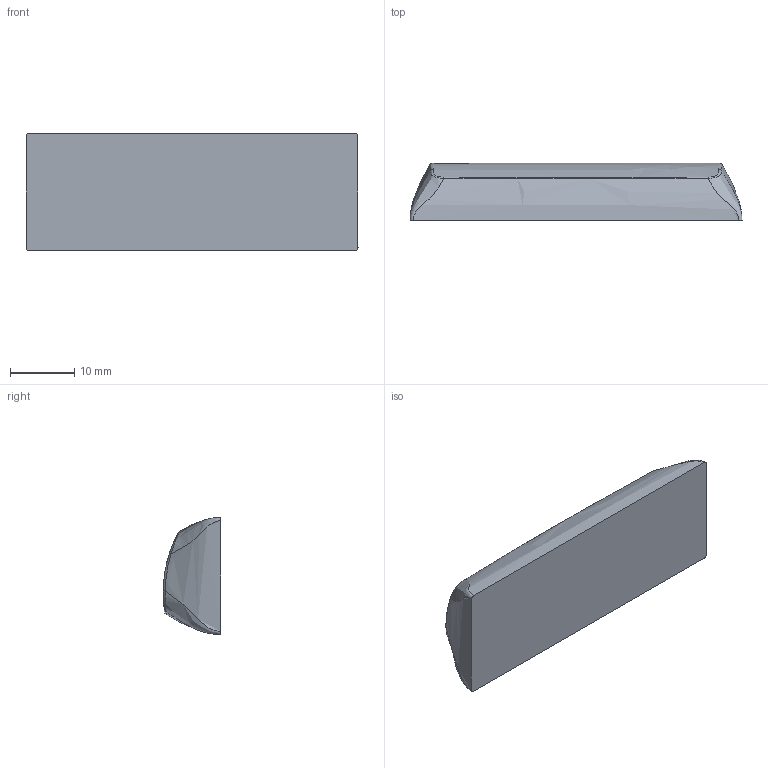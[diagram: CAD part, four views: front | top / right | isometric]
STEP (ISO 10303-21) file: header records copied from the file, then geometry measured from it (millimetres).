
FILE_DESCRIPTION (( 'STEP AP203' ), '1' );
FILE_NAME ('R4_Spacebar_2.75U_v3.2_GMK.STEP', '2023-03-07T11:12:45', ( '' ), ( '' ), 'SwSTEP 2.0', 'SolidWorks 2022', '' );
FILE_SCHEMA (( 'CONFIG_CONTROL_DESIGN' ));
Length unit declared in the file: millimetre
Products named in the file (1): R4_Spacebar_2.75U_v3.2_GMK
Bounding box: 51.54 x 8.96 x 18.2 mm (x, y, z)
Volume: 6555.1 mm3; surface area: 2596.7 mm2
Topology: 1 solids, 1 shells, 18 faces, 40 edges, 24 vertices
Faces by surface type: bspline 17, plane 1
Entity records: 2733 total; most frequent: CARTESIAN_POINT 2402, ORIENTED_EDGE 80, EDGE_CURVE 40, B_SPLINE_CURVE_WITH_KNOTS 28, VERTEX_POINT 24, ADVANCED_FACE 18, FACE_OUTER_BOUND 18, EDGE_LOOP 18
